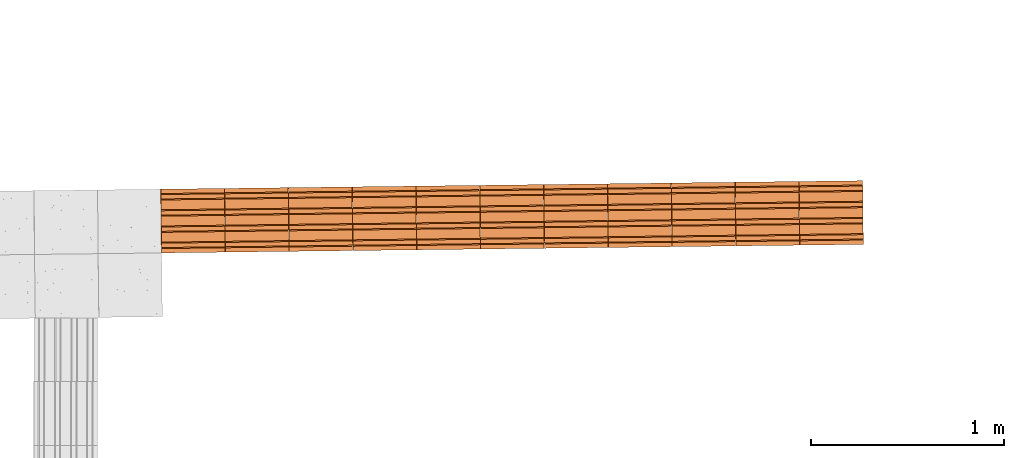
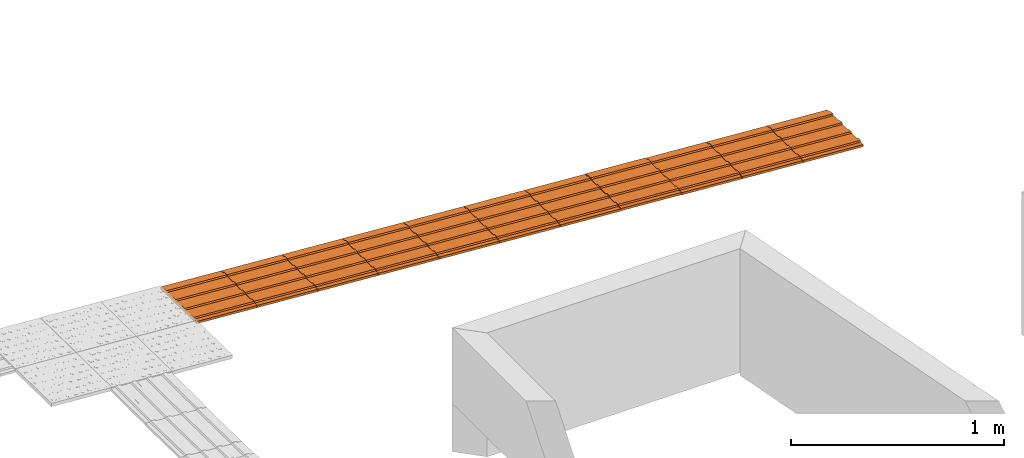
# One storey, part 207 of 237: 11 proxies.
"""IFC2X3 building model written with IfcOpenShell, lengths in millimetres."""

from ifc_helpers import new_model, entity, si_unit, converted_unit, derived_unit, money_unit, direction, frame, origin_with_axes, place, context, subcontext, project, spatial, open_shell, surface_model, source, transform, mapped, type_object, element, save


model = new_model("IFC2X3")

# Units and contexts
model_context = context("Model", 3, precision=0.01, world=origin_with_axes(), true_north=direction((0.0, 1.0)))
body_context = subcontext(model_context, "Body", "Model", "MODEL_VIEW")
ifc_project = project(units=[si_unit("LENGTHUNIT", "METRE", prefix="MILLI"), si_unit("AREAUNIT", "SQUARE_METRE"), si_unit("VOLUMEUNIT", "CUBIC_METRE"), converted_unit("PLANEANGLEUNIT", "DEGREE", entity("IfcPlaneAngleMeasure", 0.0174532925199), si_unit("PLANEANGLEUNIT", "RADIAN"), dimensions=[0, 0, 0, 0, 0, 0, 0]), money_unit("USD"), converted_unit("TIMEUNIT", "Year", entity("IfcTimeMeasure", 31556926.0), si_unit("TIMEUNIT", "SECOND"), dimensions=[0, 0, 1, 0, 0, 0, 0]), si_unit("MASSUNIT", "GRAM", prefix="KILO"), si_unit("THERMODYNAMICTEMPERATUREUNIT", "DEGREE_CELSIUS"), si_unit("LUMINOUSINTENSITYUNIT", "LUMEN"), si_unit("ENERGYUNIT", "JOULE", prefix="MEGA"), derived_unit("THERMALCONDUCTANCEUNIT", [(si_unit("POWERUNIT", "WATT"), 1), (si_unit("LENGTHUNIT", "METRE"), -1), (si_unit("THERMODYNAMICTEMPERATUREUNIT", "KELVIN"), -1)]), derived_unit("SPECIFICHEATCAPACITYUNIT", [(si_unit("ENERGYUNIT", "JOULE"), 1), (si_unit("MASSUNIT", "GRAM", prefix="KILO"), -1), (si_unit("THERMODYNAMICTEMPERATUREUNIT", "KELVIN"), -1)]), derived_unit("MASSDENSITYUNIT", [(si_unit("MASSUNIT", "GRAM", prefix="KILO"), 1), (si_unit("VOLUMEUNIT", "CUBIC_METRE"), -1)])], contexts=[model_context])

# Site, building, storey
site_placement = place(None, origin_with_axes())
site = spatial("IfcSite", under=ifc_project, at=site_placement, Name="Local", CompositionType="ELEMENT")
building_placement = place(site_placement, origin_with_axes())
building = spatial("IfcBuilding", under=site, at=building_placement, Name="Construção", CompositionType="ELEMENT")
storey_placement = place(building_placement, origin_with_axes())
storey = spatial("IfcBuildingStorey", under=building, at=storey_placement, Name="Pavimento Térreo", CompositionType="ELEMENT", Elevation=0.0)

# Proxies
building_element_proxy_type = type_object("IfcBuildingElementProxyType", Name="Piso Direcional 27", PredefinedType="NOTDEFINED")
shared_shape = source(origin_with_axes(), body_context, "Body", "SurfaceModel", [
    surface_model("IfcShellBasedSurfaceModel", [(-0.316074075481, -47.258225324, 4.01610191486), (328.666646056, -47.258225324, 29.907603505), (328.143585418, -41.665004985, 36.5537190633), (-0.839134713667, -41.665004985, 10.6622174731)], [open_shell([[[0, 1, 2, 3]]])]),
    surface_model("IfcShellBasedSurfaceModel", [(329.712767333, -153.529411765, 16.6153723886), (329.712767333, 176.470588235, 16.6153723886), (328.666646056, 176.470588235, 29.907603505), (328.666646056, 154.097706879, 29.907603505), (328.143585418, 148.50448654, 36.5537190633), (328.143585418, 126.131605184, 36.5537190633), (328.666646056, 120.538384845, 29.907603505), (328.666646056, 70.1994017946, 29.907603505), (328.143585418, 64.6061814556, 36.5537190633), (328.143585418, 42.2333000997, 36.5537190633), (328.666646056, 36.6400797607, 29.907603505), (328.666646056, -13.6989032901, 29.907603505), (328.143585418, -19.2921236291, 36.5537190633), (328.143585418, -41.665004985, 36.5537190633), (328.666646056, -47.258225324, 29.907603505), (328.666646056, -97.5972083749, 29.907603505), (328.143585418, -103.190428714, 36.5537190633), (328.143585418, -125.56331007, 36.5537190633), (328.666646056, -131.156530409, 29.907603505), (328.666646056, -153.529411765, 29.907603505)], [open_shell([[[0, 1, 2, 3, 4, 5, 6, 7, 8, 9, 10, 11, 12, 13, 14, 15, 16, 17, 18, 19]]])]),
    surface_model("IfcShellBasedSurfaceModel", [(-0.839134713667, -19.2921236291, 10.6622174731), (328.143585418, -19.2921236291, 36.5537190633), (328.666646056, -13.6989032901, 29.907603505), (-0.316074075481, -13.6989032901, 4.01610191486)], [open_shell([[[0, 1, 2, 3]]])]),
    surface_model("IfcShellBasedSurfaceModel", [(-0.839134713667, -103.190428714, 10.6622174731), (328.143585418, -103.190428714, 36.5537190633), (328.666646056, -97.5972083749, 29.907603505), (-0.316074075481, -97.5972083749, 4.01610191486)], [open_shell([[[0, 1, 2, 3]]])]),
    surface_model("IfcShellBasedSurfaceModel", [(-0.839134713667, 64.6061814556, 10.6622174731), (328.143585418, 64.6061814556, 36.5537190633), (328.666646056, 70.1994017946, 29.907603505), (-0.316074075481, 70.1994017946, 4.01610191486)], [open_shell([[[0, 1, 2, 3]]])]),
    surface_model("IfcShellBasedSurfaceModel", [(-0.316074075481, 36.6400797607, 4.01610191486), (328.666646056, 36.6400797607, 29.907603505), (328.143585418, 42.2333000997, 36.5537190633), (-0.839134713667, 42.2333000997, 10.6622174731)], [open_shell([[[0, 1, 2, 3]]])]),
    surface_model("IfcShellBasedSurfaceModel", [(-0.316074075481, -131.156530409, 4.01610191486), (328.666646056, -131.156530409, 29.907603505), (328.143585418, -125.56331007, 36.5537190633), (-0.839134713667, -125.56331007, 10.6622174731)], [open_shell([[[0, 1, 2, 3]]])]),
    surface_model("IfcShellBasedSurfaceModel", [(-0.316074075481, 176.470588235, 4.01610191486), (-0.316074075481, 154.097706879, 4.01610191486), (328.666646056, 154.097706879, 29.907603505), (328.666646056, 176.470588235, 29.907603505)], [open_shell([[[0, 1, 2, 3]]])]),
    surface_model("IfcShellBasedSurfaceModel", [(-0.316074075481, 120.538384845, 4.01610191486), (328.666646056, 120.538384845, 29.907603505), (328.143585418, 126.131605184, 36.5537190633), (-0.839134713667, 126.131605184, 10.6622174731)], [open_shell([[[0, 1, 2, 3]]])]),
    surface_model("IfcShellBasedSurfaceModel", [(-0.839134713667, 148.50448654, 10.6622174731), (328.143585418, 148.50448654, 36.5537190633), (328.666646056, 154.097706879, 29.907603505), (-0.316074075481, 154.097706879, 4.01610191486)], [open_shell([[[0, 1, 2, 3]]])]),
    surface_model("IfcShellBasedSurfaceModel", [(-0.316074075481, 36.6400797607, 4.01610191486), (-0.316074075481, -13.6989032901, 4.01610191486), (328.666646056, -13.6989032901, 29.907603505), (328.666646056, 36.6400797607, 29.907603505)], [open_shell([[[0, 1, 2, 3]]])]),
    surface_model("IfcShellBasedSurfaceModel", [(-0.316074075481, 120.538384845, 4.01610191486), (-0.316074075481, 70.1994017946, 4.01610191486), (328.666646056, 70.1994017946, 29.907603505), (328.666646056, 120.538384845, 29.907603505)], [open_shell([[[0, 1, 2, 3]]])]),
    surface_model("IfcShellBasedSurfaceModel", [(-0.839134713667, 148.50448654, 10.6622174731), (-0.839134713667, 126.131605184, 10.6622174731), (328.143585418, 126.131605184, 36.5537190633), (328.143585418, 148.50448654, 36.5537190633)], [open_shell([[[0, 1, 2, 3]]])]),
    surface_model("IfcShellBasedSurfaceModel", [(-0.316074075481, 120.538384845, 4.01610191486), (-0.839134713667, 126.131605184, 10.6622174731), (-0.839134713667, 148.50448654, 10.6622174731), (-0.316074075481, 154.097706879, 4.01610191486), (-0.316074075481, 176.470588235, 4.01610191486), (0.73004720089, 176.470588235, -9.27612920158), (0.73004720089, -153.529411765, -9.27612920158), (-0.316074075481, -153.529411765, 4.01610191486), (-0.316074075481, -131.156530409, 4.01610191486), (-0.839134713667, -125.56331007, 10.6622174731), (-0.839134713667, -103.190428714, 10.6622174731), (-0.316074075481, -97.5972083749, 4.01610191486), (-0.316074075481, -47.258225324, 4.01610191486), (-0.839134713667, -41.665004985, 10.6622174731), (-0.839134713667, -19.2921236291, 10.6622174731), (-0.316074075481, -13.6989032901, 4.01610191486), (-0.316074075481, 36.6400797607, 4.01610191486), (-0.839134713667, 42.2333000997, 10.6622174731), (-0.839134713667, 64.6061814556, 10.6622174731), (-0.316074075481, 70.1994017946, 4.01610191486)], [open_shell([[[0, 1, 2, 3, 4, 5, 6, 7, 8, 9, 10, 11, 12, 13, 14, 15, 16, 17, 18, 19]]])]),
    surface_model("IfcShellBasedSurfaceModel", [(328.143585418, -41.665004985, 36.5537190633), (328.143585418, -19.2921236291, 36.5537190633), (-0.839134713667, -19.2921236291, 10.6622174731), (-0.839134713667, -41.665004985, 10.6622174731)], [open_shell([[[0, 1, 2, 3]]])]),
    surface_model("IfcShellBasedSurfaceModel", [(-0.316074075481, -47.258225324, 4.01610191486), (-0.316074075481, -97.5972083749, 4.01610191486), (328.666646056, -97.5972083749, 29.907603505), (328.666646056, -47.258225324, 29.907603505)], [open_shell([[[0, 1, 2, 3]]])]),
    surface_model("IfcShellBasedSurfaceModel", [(328.143585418, 42.2333000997, 36.5537190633), (328.143585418, 64.6061814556, 36.5537190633), (-0.839134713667, 64.6061814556, 10.6622174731), (-0.839134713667, 42.2333000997, 10.6622174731)], [open_shell([[[0, 1, 2, 3]]])]),
    surface_model("IfcShellBasedSurfaceModel", [(328.143585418, -125.56331007, 36.5537190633), (328.143585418, -103.190428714, 36.5537190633), (-0.839134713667, -103.190428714, 10.6622174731), (-0.839134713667, -125.56331007, 10.6622174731)], [open_shell([[[0, 1, 2, 3]]])]),
    surface_model("IfcShellBasedSurfaceModel", [(329.712767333, 176.470588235, 16.6153723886), (0.73004720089, 176.470588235, -9.27612920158), (-0.316074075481, 176.470588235, 4.01610191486), (328.666646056, 176.470588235, 29.907603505)], [open_shell([[[0, 1, 2, 3]]])]),
    surface_model("IfcShellBasedSurfaceModel", [(329.712767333, -153.529411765, 16.6153723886), (0.73004720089, -153.529411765, -9.27612920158), (0.73004720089, 176.470588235, -9.27612920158), (329.712767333, 176.470588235, 16.6153723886)], [open_shell([[[0, 1, 2, 3]]])]),
    surface_model("IfcShellBasedSurfaceModel", [(328.666646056, -153.529411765, 29.907603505), (328.666646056, -131.156530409, 29.907603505), (-0.316074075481, -131.156530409, 4.01610191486), (-0.316074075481, -153.529411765, 4.01610191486)], [open_shell([[[0, 1, 2, 3]]])]),
    surface_model("IfcShellBasedSurfaceModel", [(0.73004720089, -153.529411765, -9.27612920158), (329.712767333, -153.529411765, 16.6153723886), (328.666646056, -153.529411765, 29.907603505), (-0.316074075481, -153.529411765, 4.01610191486)], [open_shell([[[0, 1, 2, 3]]])]),
])
for number, where, z_axis, x_axis, name in (
    (1, (136181.378681, 37700.4711237, -8189.74904164), (0.0, 0.0, 1.0), (-0.999926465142, -0.012127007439, 0.0), "Objeto-0055"),
    (2, (139487.072819, 37740.5649402, -8449.93194764), (0.0, 0.0, 1.0), (-0.999926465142, -0.012127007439, 0.0), "Objeto-0055"),
    (3, (139156.503405, 37736.5555585, -8423.91365704), (0.0, 0.0, 1.0), (-0.999926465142, -0.012127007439, 0.0), "Objeto-0055"),
    (4, (136511.948095, 37704.4805054, -8215.76733224), (0.0, 0.0, 1.0), (-0.999926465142, -0.012127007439, 0.0), "Objeto-0055"),
    (5, (136842.517508, 37708.489887, -8241.78562284), (0.0, 0.0, 1.0), (-0.999926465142, -0.012127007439, 0.0), "Objeto-0055"),
    (6, (137173.086922, 37712.4992687, -8267.80391344), (0.0, 0.0, 1.0), (-0.999926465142, -0.012127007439, 0.0), "Objeto-0055"),
    (7, (137503.656336, 37716.5086503, -8293.82220404), (0.0, 0.0, 1.0), (-0.999926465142, -0.012127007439, 0.0), "Objeto-0055"),
    (8, (137834.22575, 37720.518032, -8319.84049464), (0.0, 0.0, 1.0), (-0.999926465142, -0.012127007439, 0.0), "Objeto-0055"),
    (9, (138164.795164, 37724.5274136, -8345.85878524), (0.0, 0.0, 1.0), (-0.999926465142, -0.012127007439, 0.0), "Objeto-0055"),
    (10, (138495.364577, 37728.5367952, -8370.1765699), (0.0, 0.0, 1.0), (-0.999926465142, -0.012127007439, 0.0), "Objeto-0055"),
    (11, (138825.933991, 37732.5461769, -8397.89536644), (0.0, 0.0, 1.0), (-0.999926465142, -0.012127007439, 0.0), "Objeto-0055"),
):
    element("IfcBuildingElementProxy", number, at=place(storey_placement, frame(where, z_axis=z_axis, x_axis=x_axis)), inside=storey, type_object=building_element_proxy_type, Name=name, context=body_context, shape_type="MappedRepresentation", body=[
        mapped(shared_shape, transform((0.0, 0.0, 0.0))),
    ])

save(model, "model.ifc")
